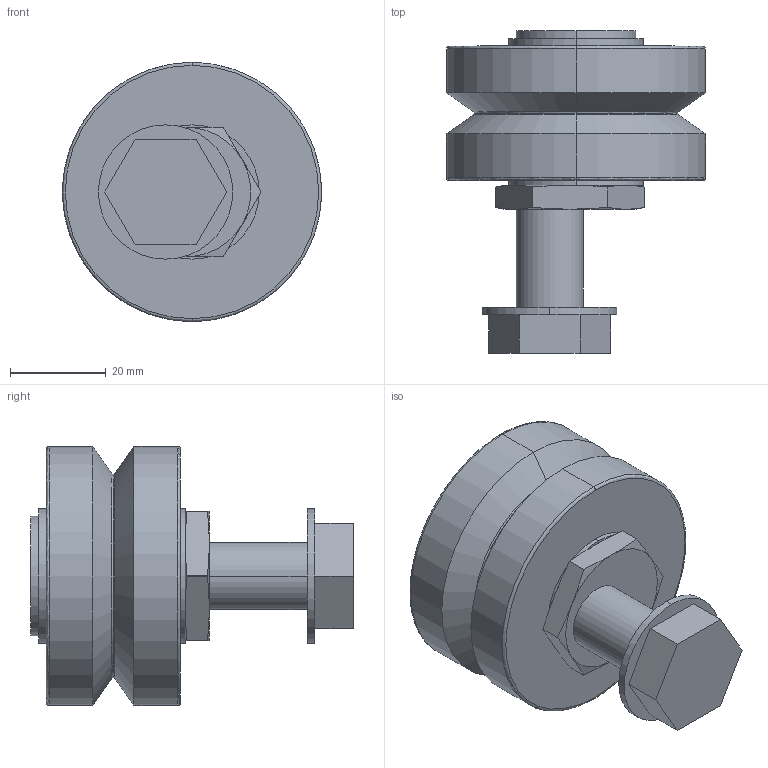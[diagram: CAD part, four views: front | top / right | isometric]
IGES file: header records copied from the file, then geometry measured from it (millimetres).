
Start section: 3D InterOp IGES (Version 21 0 1), Spatial Corp. Copyright (c) 1999-2007.
Global section: file name: RLFJ54DENS.igs; native system: Spatial Corp.; preprocessor: 3D InterOp GENERIC/IGES 3.0; author: Noname; organization: Noname; date: 20220627.163840; units: millimetre
Bounding box: 54 x 67.2 x 54 mm (x, y, z)
Surface area: 23500.1 mm2 (no closed solid volume)
Topology: 0 solids, 0 shells, 70 faces, 352 edges, 352 vertices
Faces by surface type: revolution 40, extrusion 30
